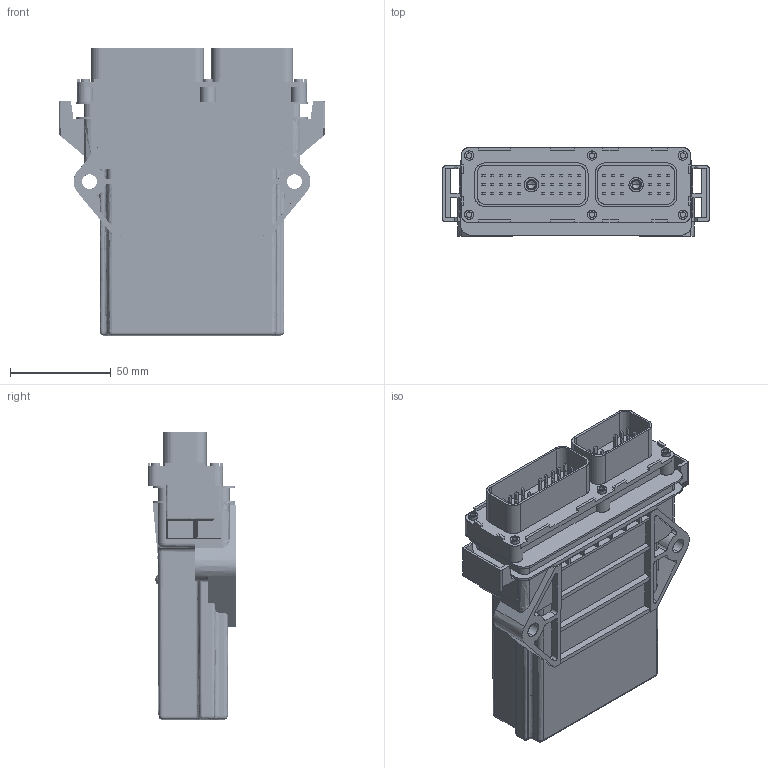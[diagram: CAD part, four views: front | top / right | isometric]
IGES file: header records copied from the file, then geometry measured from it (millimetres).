
Start section: SolidWorks IGES file using analytic representation for surfaces
Global section: file name: C:\Dans Design Files\EMC-6 Assy.IGS; native system: SolidWorks 2012; preprocessor: SolidWorks 2012; author: dphillips; date: 141022.075202; units: inch
Bounding box: 132 x 44.03 x 142.75 mm (x, y, z)
Surface area: 80334 mm2 (no closed solid volume)
Topology: 0 solids, 0 shells, 4790 faces, 49680 edges, 49672 vertices
Faces by surface type: bspline 4591, revolution 199
